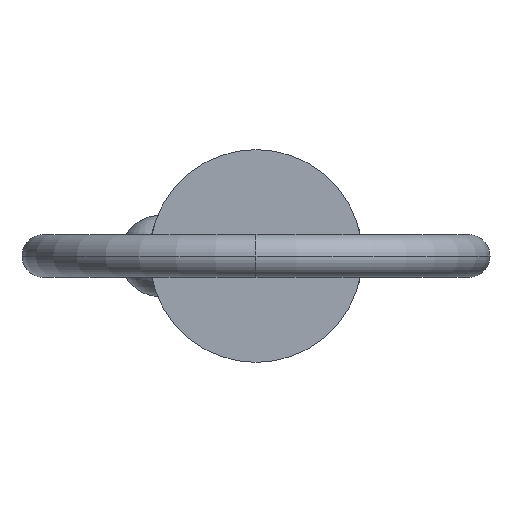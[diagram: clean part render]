
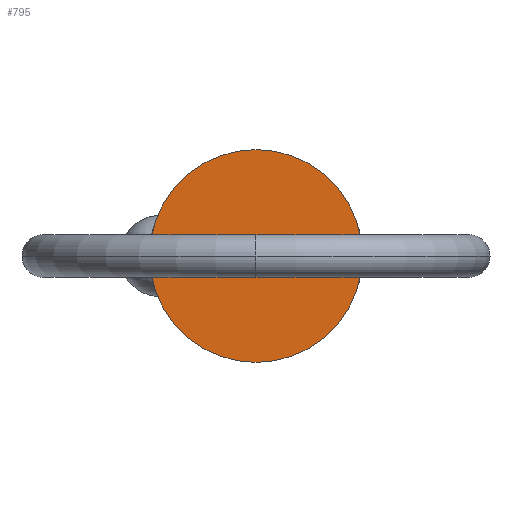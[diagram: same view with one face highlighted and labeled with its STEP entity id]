
A CAD part, left-side view. The second image highlights one B-rep face of the part: STEP entity #795.
In plain terms, the highlighted planar face has unit normal (-1, 0, 0).
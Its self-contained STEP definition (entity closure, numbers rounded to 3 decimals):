
#134 = DIRECTION ( 'NONE',  ( 0., 0., 1. ) ) ;
#195 = CARTESIAN_POINT ( 'NONE',  ( 0., 0., 0. ) ) ;
#257 = DIRECTION ( 'NONE',  ( 0., 0., -1. ) ) ;
#265 = EDGE_LOOP ( 'NONE', ( #321, #636 ) ) ;
#297 = CARTESIAN_POINT ( 'NONE',  ( 0., 0., 0. ) ) ;
#302 = AXIS2_PLACEMENT_3D ( 'NONE', #406, #550, #257 ) ;
#321 = ORIENTED_EDGE ( 'NONE', *, *, #668, .F. ) ;
#342 = CIRCLE ( 'NONE', #302, 9.525 ) ;
#400 = AXIS2_PLACEMENT_3D ( 'NONE', #297, #848, #134 ) ;
#406 = CARTESIAN_POINT ( 'NONE',  ( 0., 0., 0. ) ) ;
#475 = DIRECTION ( 'NONE',  ( 0., 0., -1. ) ) ;
#550 = DIRECTION ( 'NONE',  ( 1., 0., 0. ) ) ;
#609 = VERTEX_POINT ( 'NONE', #747 ) ;
#612 = AXIS2_PLACEMENT_3D ( 'NONE', #195, #881, #475 ) ;
#636 = ORIENTED_EDGE ( 'NONE', *, *, #667, .F. ) ;
#667 = EDGE_CURVE ( 'NONE', #609, #726, #733, .T. ) ;
#668 = EDGE_CURVE ( 'NONE', #726, #609, #342, .T. ) ;
#707 = CARTESIAN_POINT ( 'NONE',  ( 0., 0., -9.525 ) ) ;
#726 = VERTEX_POINT ( 'NONE', #707 ) ;
#733 = CIRCLE ( 'NONE', #612, 9.525 ) ;
#747 = CARTESIAN_POINT ( 'NONE',  ( 0., 0., 9.525 ) ) ;
#762 = FACE_OUTER_BOUND ( 'NONE', #265, .T. ) ;
#795 = ADVANCED_FACE ( 'NONE', ( #762 ), #835, .T. ) ;
#835 = PLANE ( 'NONE',  #400 ) ;
#848 = DIRECTION ( 'NONE',  ( -1., 0., 0. ) ) ;
#881 = DIRECTION ( 'NONE',  ( 1., 0., 0. ) ) ;
